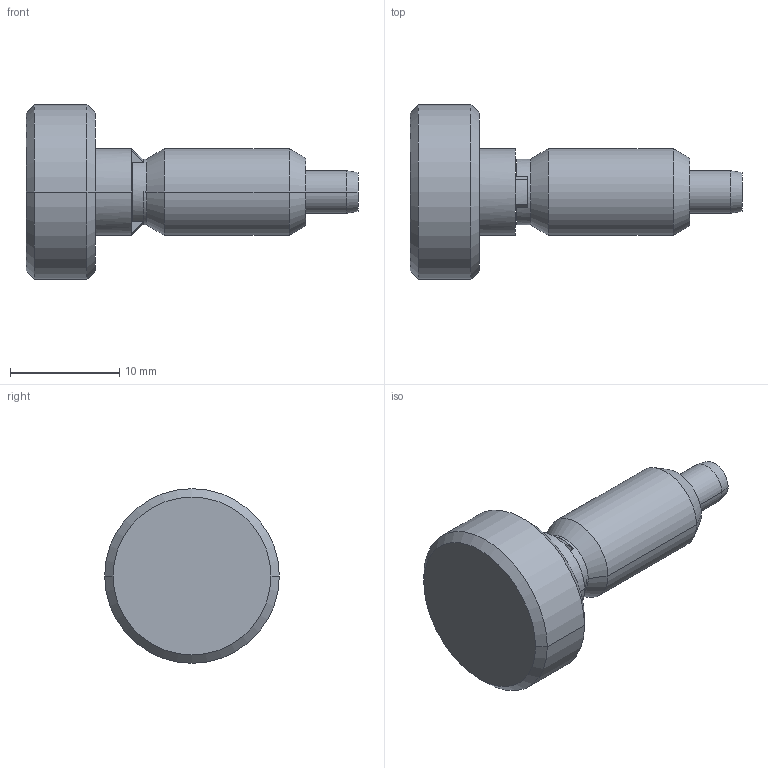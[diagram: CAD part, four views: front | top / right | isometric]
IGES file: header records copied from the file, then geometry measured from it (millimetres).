
Start section:  PTC IGES file: sl312-3d.igs
Global section: file name: sl312-3d.igs; native system: Pro/ENGINEER by Parametric Technology Corporation; preprocessor: 2002350; author: chant; organization: Unknown; date: 061214.144646; units: inch
Bounding box: 30.43 x 16 x 16 mm (x, y, z)
Surface area: 1632.4 mm2 (no closed solid volume)
Topology: 0 solids, 0 shells, 52 faces, 347 edges, 431 vertices
Faces by surface type: revolution 32, bspline 20
